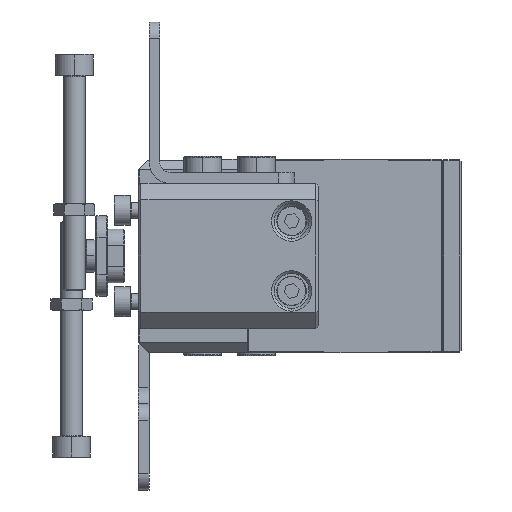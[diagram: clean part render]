
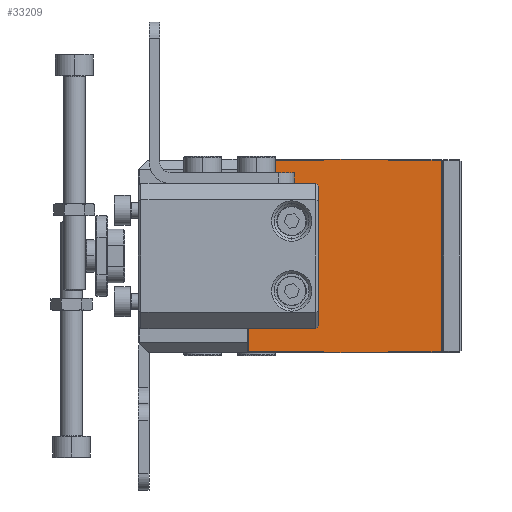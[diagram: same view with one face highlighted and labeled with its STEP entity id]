
A CAD part, left-side view. The second image highlights one B-rep face of the part: STEP entity #33209.
In plain terms, the highlighted planar face has unit normal (-1, 0, 0).
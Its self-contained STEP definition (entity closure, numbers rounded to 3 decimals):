
#253 = DIRECTION ( 'NONE',  ( 0., 0., 1. ) ) ;
#673 = EDGE_CURVE ( 'NONE', #8015, #8290, #1618, .T. ) ;
#1056 = DIRECTION ( 'NONE',  ( 0., 0., -1. ) ) ;
#1132 = DIRECTION ( 'NONE',  ( 0., 1., 0. ) ) ;
#1371 = LINE ( 'NONE', #14754, #16747 ) ;
#1618 = LINE ( 'NONE', #27104, #26461 ) ;
#2148 = ORIENTED_EDGE ( 'NONE', *, *, #26977, .F. ) ;
#2221 = ORIENTED_EDGE ( 'NONE', *, *, #17467, .T. ) ;
#2501 = VECTOR ( 'NONE', #6000, 1000. ) ;
#2582 = DIRECTION ( 'NONE',  ( 1., 0., 0. ) ) ;
#2784 = CARTESIAN_POINT ( 'NONE',  ( -31.048, 13.5, 44.956 ) ) ;
#3613 = VECTOR ( 'NONE', #18486, 1000. ) ;
#4217 = ORIENTED_EDGE ( 'NONE', *, *, #41624, .F. ) ;
#5323 = LINE ( 'NONE', #31229, #3613 ) ;
#5805 = PLANE ( 'NONE',  #37074 ) ;
#6000 = DIRECTION ( 'NONE',  ( 0., 1., 0. ) ) ;
#6952 = LINE ( 'NONE', #19702, #34687 ) ;
#7695 = EDGE_CURVE ( 'NONE', #8290, #24435, #6952, .T. ) ;
#8015 = VERTEX_POINT ( 'NONE', #17348 ) ;
#8290 = VERTEX_POINT ( 'NONE', #18007 ) ;
#9250 = VERTEX_POINT ( 'NONE', #31199 ) ;
#9715 = VERTEX_POINT ( 'NONE', #27474 ) ;
#10399 = VERTEX_POINT ( 'NONE', #27536 ) ;
#11738 = LINE ( 'NONE', #31806, #25515 ) ;
#12051 = CARTESIAN_POINT ( 'NONE',  ( -31.048, 24.5, 44.956 ) ) ;
#12239 = CARTESIAN_POINT ( 'NONE',  ( -31.048, 13.5, 9.156 ) ) ;
#12687 = ORIENTED_EDGE ( 'NONE', *, *, #20900, .F. ) ;
#14050 = ORIENTED_EDGE ( 'NONE', *, *, #37613, .F. ) ;
#14584 = DIRECTION ( 'NONE',  ( 0., 1., 0. ) ) ;
#14669 = CARTESIAN_POINT ( 'NONE',  ( -31.048, 24.5, 44.756 ) ) ;
#14754 = CARTESIAN_POINT ( 'NONE',  ( -31.048, 13.5, 44.956 ) ) ;
#14759 = LINE ( 'NONE', #24459, #19643 ) ;
#14868 = VECTOR ( 'NONE', #1056, 1000. ) ;
#15536 = FACE_OUTER_BOUND ( 'NONE', #30786, .T. ) ;
#15658 = EDGE_CURVE ( 'NONE', #18483, #18907, #14759, .T. ) ;
#15761 = VECTOR ( 'NONE', #18764, 1000. ) ;
#15808 = CARTESIAN_POINT ( 'NONE',  ( -31.048, 25.5, 44.956 ) ) ;
#16577 = VECTOR ( 'NONE', #26546, 1000. ) ;
#16747 = VECTOR ( 'NONE', #27500, 1000. ) ;
#17348 = CARTESIAN_POINT ( 'NONE',  ( -31.048, 25.5, 9.156 ) ) ;
#17452 = CARTESIAN_POINT ( 'NONE',  ( -31.048, 3.7, 9.156 ) ) ;
#17467 = EDGE_CURVE ( 'NONE', #22752, #9715, #21151, .T. ) ;
#17511 = VECTOR ( 'NONE', #34047, 1000. ) ;
#18007 = CARTESIAN_POINT ( 'NONE',  ( -31.048, 39.5, 9.156 ) ) ;
#18483 = VERTEX_POINT ( 'NONE', #17452 ) ;
#18486 = DIRECTION ( 'NONE',  ( 0., 0., -1. ) ) ;
#18764 = DIRECTION ( 'NONE',  ( 0., -1., 0. ) ) ;
#18907 = VERTEX_POINT ( 'NONE', #12239 ) ;
#18983 = CARTESIAN_POINT ( 'NONE',  ( -31.048, 24.5, 44.956 ) ) ;
#19643 = VECTOR ( 'NONE', #27930, 1000. ) ;
#19702 = CARTESIAN_POINT ( 'NONE',  ( -31.048, 39.5, 44.956 ) ) ;
#20545 = VERTEX_POINT ( 'NONE', #36752 ) ;
#20571 = LINE ( 'NONE', #20775, #27586 ) ;
#20775 = CARTESIAN_POINT ( 'NONE',  ( -31.048, 24.5, 8.956 ) ) ;
#20900 = EDGE_CURVE ( 'NONE', #39374, #18483, #33623, .T. ) ;
#21151 = LINE ( 'NONE', #34082, #14868 ) ;
#21373 = LINE ( 'NONE', #14669, #15761 ) ;
#22690 = LINE ( 'NONE', #26131, #16577 ) ;
#22752 = VERTEX_POINT ( 'NONE', #15808 ) ;
#24126 = CARTESIAN_POINT ( 'NONE',  ( -31.048, 39.5, 44.756 ) ) ;
#24435 = VERTEX_POINT ( 'NONE', #24126 ) ;
#24459 = CARTESIAN_POINT ( 'NONE',  ( -31.048, 24.5, 9.156 ) ) ;
#25109 = ORIENTED_EDGE ( 'NONE', *, *, #15658, .F. ) ;
#25430 = EDGE_CURVE ( 'NONE', #10399, #39374, #21373, .T. ) ;
#25515 = VECTOR ( 'NONE', #35261, 1000. ) ;
#25519 = ORIENTED_EDGE ( 'NONE', *, *, #25430, .F. ) ;
#26131 = CARTESIAN_POINT ( 'NONE',  ( -31.048, 24.5, 44.756 ) ) ;
#26461 = VECTOR ( 'NONE', #14584, 1000. ) ;
#26546 = DIRECTION ( 'NONE',  ( 0., 1., 0. ) ) ;
#26977 = EDGE_CURVE ( 'NONE', #20545, #8015, #11738, .T. ) ;
#27104 = CARTESIAN_POINT ( 'NONE',  ( -31.048, 24.5, 9.156 ) ) ;
#27197 = CARTESIAN_POINT ( 'NONE',  ( -31.048, 3.7, 44.756 ) ) ;
#27474 = CARTESIAN_POINT ( 'NONE',  ( -31.048, 25.5, 44.756 ) ) ;
#27500 = DIRECTION ( 'NONE',  ( 0., 0., -1. ) ) ;
#27536 = CARTESIAN_POINT ( 'NONE',  ( -31.048, 13.5, 44.756 ) ) ;
#27586 = VECTOR ( 'NONE', #1132, 1000. ) ;
#27930 = DIRECTION ( 'NONE',  ( 0., 1., 0. ) ) ;
#27993 = ORIENTED_EDGE ( 'NONE', *, *, #7695, .F. ) ;
#28461 = LINE ( 'NONE', #12051, #2501 ) ;
#28925 = DIRECTION ( 'NONE',  ( 0., 0., -1. ) ) ;
#29039 = ORIENTED_EDGE ( 'NONE', *, *, #673, .F. ) ;
#30085 = ORIENTED_EDGE ( 'NONE', *, *, #37928, .T. ) ;
#30786 = EDGE_LOOP ( 'NONE', ( #27993, #29039, #2148, #14050, #35733, #25109, #12687, #25519, #4217, #41613, #2221, #30085 ) ) ;
#31199 = CARTESIAN_POINT ( 'NONE',  ( -31.048, 13.5, 8.956 ) ) ;
#31229 = CARTESIAN_POINT ( 'NONE',  ( -31.048, 13.5, 44.956 ) ) ;
#31806 = CARTESIAN_POINT ( 'NONE',  ( -31.048, 25.5, 44.956 ) ) ;
#33176 = VERTEX_POINT ( 'NONE', #2784 ) ;
#33209 = ADVANCED_FACE ( 'NONE', ( #15536 ), #5805, .F. ) ;
#33623 = LINE ( 'NONE', #36650, #17511 ) ;
#34047 = DIRECTION ( 'NONE',  ( 0., 0., -1. ) ) ;
#34082 = CARTESIAN_POINT ( 'NONE',  ( -31.048, 25.5, 10.456 ) ) ;
#34687 = VECTOR ( 'NONE', #253, 1000. ) ;
#35261 = DIRECTION ( 'NONE',  ( 0., 0., 1. ) ) ;
#35733 = ORIENTED_EDGE ( 'NONE', *, *, #42031, .F. ) ;
#35777 = EDGE_CURVE ( 'NONE', #33176, #22752, #28461, .T. ) ;
#36650 = CARTESIAN_POINT ( 'NONE',  ( -31.048, 3.7, 44.956 ) ) ;
#36752 = CARTESIAN_POINT ( 'NONE',  ( -31.048, 25.5, 8.956 ) ) ;
#37074 = AXIS2_PLACEMENT_3D ( 'NONE', #18983, #2582, #28925 ) ;
#37613 = EDGE_CURVE ( 'NONE', #9250, #20545, #20571, .T. ) ;
#37928 = EDGE_CURVE ( 'NONE', #9715, #24435, #22690, .T. ) ;
#39374 = VERTEX_POINT ( 'NONE', #27197 ) ;
#41613 = ORIENTED_EDGE ( 'NONE', *, *, #35777, .T. ) ;
#41624 = EDGE_CURVE ( 'NONE', #33176, #10399, #5323, .T. ) ;
#42031 = EDGE_CURVE ( 'NONE', #18907, #9250, #1371, .T. ) ;
